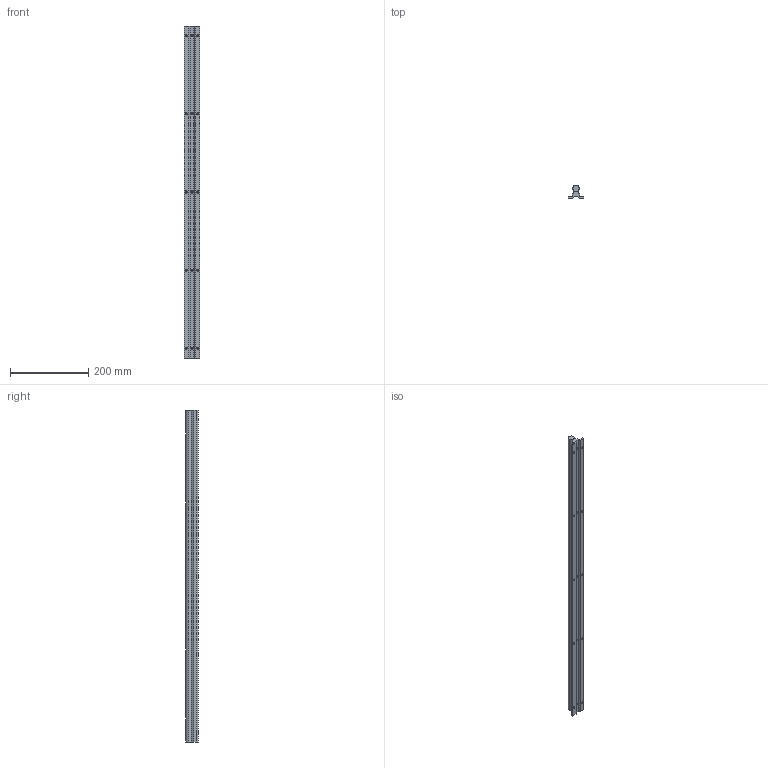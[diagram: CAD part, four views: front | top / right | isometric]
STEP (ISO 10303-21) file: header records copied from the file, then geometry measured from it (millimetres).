
FILE_DESCRIPTION (( 'STEP AP214' ), '1' );
FILE_NAME ('SBR16-850.STEP', '2025-09-17T14:40:05', ( '' ), ( '' ), 'SwSTEP 2.0', 'SolidWorks 2019', '' );
FILE_SCHEMA (( 'AUTOMOTIVE_DESIGN' ));
Length unit declared in the file: millimetre
Products named in the file (1): SBR16-850
Bounding box: 40 x 33 x 850 mm (x, y, z)
Volume: 423451.2 mm3; surface area: 144540.3 mm2
Topology: 2 solids, 2 shells, 75 faces, 218 edges, 142 vertices
Faces by surface type: cylinder 54, plane 21
Entity records: 3193 total; most frequent: CARTESIAN_POINT 1086, ORIENTED_EDGE 436, DIRECTION 418, EDGE_CURVE 218, AXIS2_PLACEMENT_3D 154, VERTEX_POINT 142, EDGE_LOOP 110, VECTOR 110
